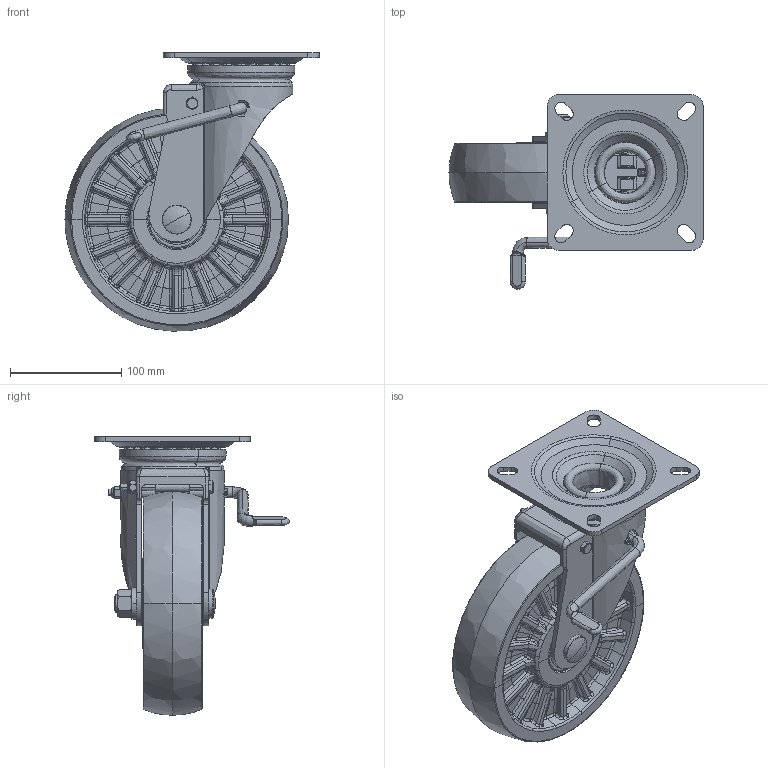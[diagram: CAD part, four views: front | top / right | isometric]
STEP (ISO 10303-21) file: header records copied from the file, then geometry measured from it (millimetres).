
FILE_DESCRIPTION (( 'STEP AP214' ), '1' );
FILE_NAME ('ME-200WJS.STEP', '2023-03-09T02:43:03', ( 'sakai' ), ( 'Hewlett-Packard' ), 'SwSTEP 2.0', 'SolidWorks 2010', '' );
FILE_SCHEMA (( 'AUTOMOTIVE_DESIGN' ));
Length unit declared in the file: millimetre
Products named in the file (10): ME-200WJS-10; ME-200WJS-15; ME-200WJS-20; ME-200WJS-25; ME-200WJS-30; ME-200WJS-35; ME-200WJS-40; ME-200WJS-45; ME-200WJS-50; ME-200WJS
Assembly tree (9 placements, depth 2):
  ME-200WJS
    ME-200WJS-50
    ME-200WJS-15
    ME-200WJS-30
    ME-200WJS-45
    ME-200WJS-25
    ME-200WJS-35
    ME-200WJS-40
    ME-200WJS-20
    ME-200WJS-10
Bounding box: 228.5 x 175 x 250.43 mm (x, y, z)
Volume: 1575150.9 mm3; surface area: 320249.4 mm2
Topology: 60 solids, 60 shells, 2336 faces, 11629 edges, 9127 vertices
Faces by surface type: bspline 2010, plane 326
Entity records: 294540 total; most frequent: CARTESIAN_POINT 218433, ORIENTED_EDGE 22654, EDGE_CURVE 11327, B_SPLINE_CURVE_WITH_KNOTS 10396, VERTEX_POINT 9127, EDGE_LOOP 2406, ADVANCED_FACE 2336, FACE_OUTER_BOUND 2336
